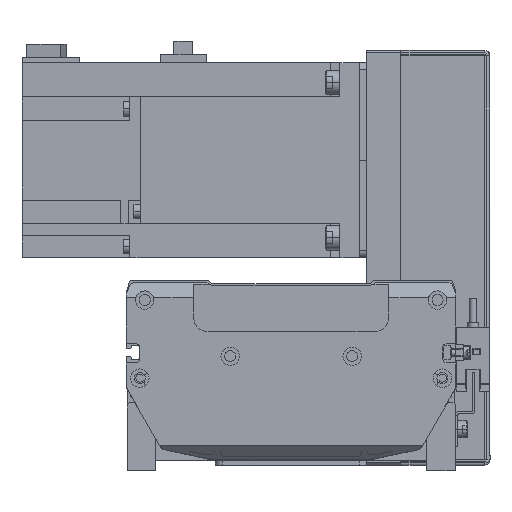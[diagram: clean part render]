
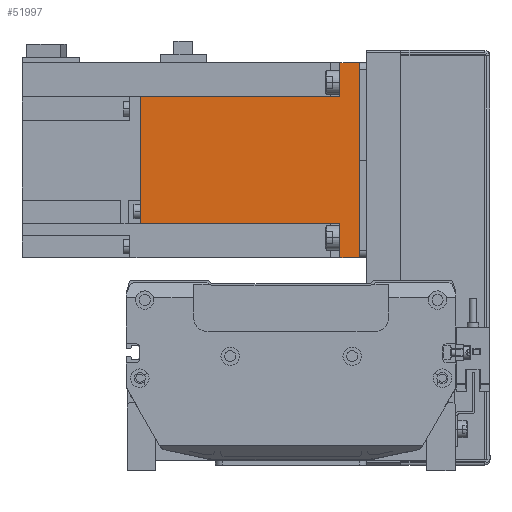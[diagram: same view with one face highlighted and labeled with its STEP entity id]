
A CAD part, front view. The second image highlights one B-rep face of the part: STEP entity #51997.
In plain terms, the highlighted planar face has unit normal (0, -1, 0) as drawn and (0, 0, 1) by its records, which use the part's own axes.
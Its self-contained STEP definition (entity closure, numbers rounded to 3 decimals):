
#747 = FACE_OUTER_BOUND ( 'NONE', #41782, .T. ) ;
#2171 = VERTEX_POINT ( 'NONE', #45005 ) ;
#2296 = EDGE_CURVE ( 'NONE', #20719, #51988, #8505, .T. ) ;
#2647 = VERTEX_POINT ( 'NONE', #49717 ) ;
#2673 = DIRECTION ( 'NONE',  ( 1., 0., 0. ) ) ;
#4840 = EDGE_CURVE ( 'NONE', #28569, #2171, #36721, .T. ) ;
#4890 = ORIENTED_EDGE ( 'NONE', *, *, #37522, .F. ) ;
#5582 = ORIENTED_EDGE ( 'NONE', *, *, #27489, .F. ) ;
#6626 = CARTESIAN_POINT ( 'NONE',  ( -25.95, 89.8, 40. ) ) ;
#7217 = VERTEX_POINT ( 'NONE', #40883 ) ;
#7918 = ORIENTED_EDGE ( 'NONE', *, *, #2296, .F. ) ;
#8505 = LINE ( 'NONE', #21347, #33796 ) ;
#9103 = DIRECTION ( 'NONE',  ( 0., -1., 0. ) ) ;
#10369 = CARTESIAN_POINT ( 'NONE',  ( 40., 89.8, 40. ) ) ;
#10952 = EDGE_CURVE ( 'NONE', #42564, #7217, #45781, .T. ) ;
#12710 = DIRECTION ( 'NONE',  ( -1., 0., 0. ) ) ;
#13788 = PLANE ( 'NONE',  #17936 ) ;
#13981 = ORIENTED_EDGE ( 'NONE', *, *, #17033, .F. ) ;
#14612 = ORIENTED_EDGE ( 'NONE', *, *, #41226, .T. ) ;
#15433 = CARTESIAN_POINT ( 'NONE',  ( -40., 8., 40. ) ) ;
#16428 = CARTESIAN_POINT ( 'NONE',  ( -40., 89.8, 40. ) ) ;
#17033 = EDGE_CURVE ( 'NONE', #2647, #20719, #31619, .T. ) ;
#17936 = AXIS2_PLACEMENT_3D ( 'NONE', #16428, #48935, #12710 ) ;
#18290 = ORIENTED_EDGE ( 'NONE', *, *, #35081, .T. ) ;
#20386 = VECTOR ( 'NONE', #2673, 1000. ) ;
#20719 = VERTEX_POINT ( 'NONE', #22364 ) ;
#21347 = CARTESIAN_POINT ( 'NONE',  ( 25.95, 89.8, 40. ) ) ;
#22364 = CARTESIAN_POINT ( 'NONE',  ( 25.95, 89.8, 40. ) ) ;
#23986 = DIRECTION ( 'NONE',  ( 1., 0., 0. ) ) ;
#24700 = VECTOR ( 'NONE', #46285, 1000. ) ;
#25371 = VECTOR ( 'NONE', #39085, 1000. ) ;
#26020 = CARTESIAN_POINT ( 'NONE',  ( -40., 89.8, 40. ) ) ;
#27489 = EDGE_CURVE ( 'NONE', #2171, #2647, #52376, .T. ) ;
#28569 = VERTEX_POINT ( 'NONE', #42433 ) ;
#30636 = LINE ( 'NONE', #48858, #35015 ) ;
#30776 = VECTOR ( 'NONE', #23986, 1000. ) ;
#31139 = LINE ( 'NONE', #42745, #20386 ) ;
#31619 = LINE ( 'NONE', #26020, #24700 ) ;
#33742 = CARTESIAN_POINT ( 'NONE',  ( 40., 0., 40. ) ) ;
#33796 = VECTOR ( 'NONE', #37389, 1000. ) ;
#35015 = VECTOR ( 'NONE', #9103, 1000. ) ;
#35081 = EDGE_CURVE ( 'NONE', #28569, #35321, #30636, .T. ) ;
#35217 = ORIENTED_EDGE ( 'NONE', *, *, #4840, .F. ) ;
#35321 = VERTEX_POINT ( 'NONE', #48787 ) ;
#35548 = DIRECTION ( 'NONE',  ( 0., 1., 0. ) ) ;
#36319 = CARTESIAN_POINT ( 'NONE',  ( -40., 8., 40. ) ) ;
#36556 = VECTOR ( 'NONE', #35548, 1000. ) ;
#36721 = LINE ( 'NONE', #15433, #25371 ) ;
#37389 = DIRECTION ( 'NONE',  ( 0., -1., 0. ) ) ;
#37421 = ORIENTED_EDGE ( 'NONE', *, *, #10952, .T. ) ;
#37522 = EDGE_CURVE ( 'NONE', #51988, #7217, #48433, .T. ) ;
#39085 = DIRECTION ( 'NONE',  ( 1., 0., 0. ) ) ;
#40883 = CARTESIAN_POINT ( 'NONE',  ( 40., 8., 40. ) ) ;
#41226 = EDGE_CURVE ( 'NONE', #35321, #42564, #31139, .T. ) ;
#41782 = EDGE_LOOP ( 'NONE', ( #35217, #18290, #14612, #37421, #4890, #7918, #13981, #5582 ) ) ;
#42433 = CARTESIAN_POINT ( 'NONE',  ( -40., 8., 40. ) ) ;
#42564 = VERTEX_POINT ( 'NONE', #33742 ) ;
#42745 = CARTESIAN_POINT ( 'NONE',  ( 0., 0., 40. ) ) ;
#42991 = DIRECTION ( 'NONE',  ( 0., 1., 0. ) ) ;
#44858 = CARTESIAN_POINT ( 'NONE',  ( 25.95, 8., 40. ) ) ;
#45005 = CARTESIAN_POINT ( 'NONE',  ( -25.95, 8., 40. ) ) ;
#45781 = LINE ( 'NONE', #10369, #52115 ) ;
#46285 = DIRECTION ( 'NONE',  ( 1., 0., 0. ) ) ;
#48433 = LINE ( 'NONE', #36319, #30776 ) ;
#48787 = CARTESIAN_POINT ( 'NONE',  ( -40., 0., 40. ) ) ;
#48858 = CARTESIAN_POINT ( 'NONE',  ( -40., 89.8, 40. ) ) ;
#48935 = DIRECTION ( 'NONE',  ( 0., 0., -1. ) ) ;
#49717 = CARTESIAN_POINT ( 'NONE',  ( -25.95, 89.8, 40. ) ) ;
#51988 = VERTEX_POINT ( 'NONE', #44858 ) ;
#51997 = ADVANCED_FACE ( 'NONE', ( #747 ), #13788, .F. ) ;
#52115 = VECTOR ( 'NONE', #42991, 1000. ) ;
#52376 = LINE ( 'NONE', #6626, #36556 ) ;
